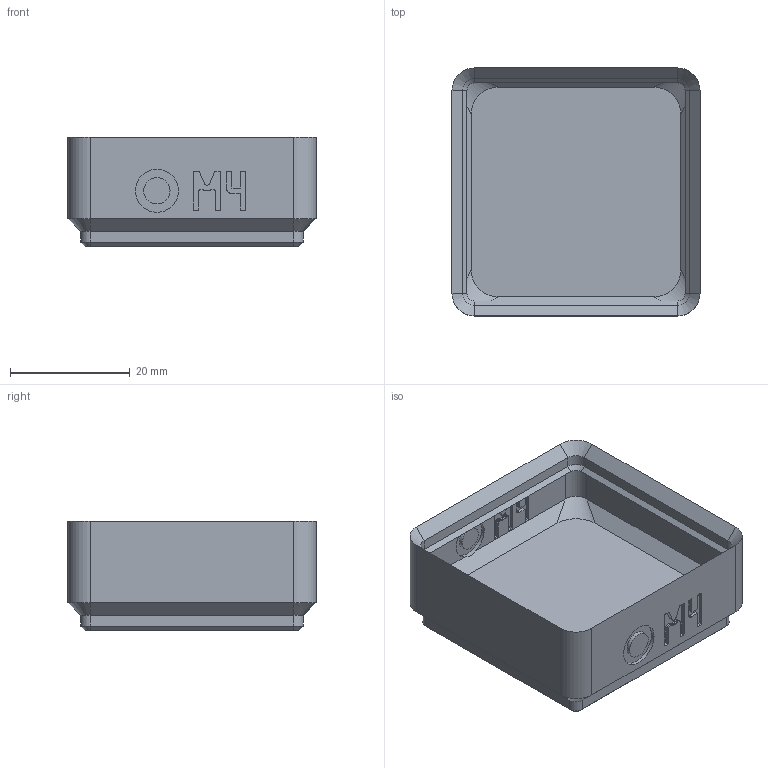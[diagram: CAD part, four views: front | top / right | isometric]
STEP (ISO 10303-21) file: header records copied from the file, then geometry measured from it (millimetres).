
FILE_DESCRIPTION(('Open CASCADE Model'),'2;1');
FILE_NAME('bin_wshr_m4','2026-11-16T17:22:21',('Author'),('Open CASCADE' ),'Open CASCADE STEP processor 8.0','build123d','Unknown');
FILE_SCHEMA(('AUTOMOTIVE_DESIGN { 1 0 10303 214 1 1 1 1 }'));
Length unit declared in the file: millimetre
Products named in the file (1): bin_wshr_m4
Bounding box: 41.5 x 41.5 x 18.4 mm (x, y, z)
Volume: 10971.2 mm3; surface area: 8324.3 mm2
Topology: 1 solids, 1 shells, 490 faces, 1360 edges, 888 vertices
Faces by surface type: plane 438, cylinder 28, cone 16, bspline 8
Full cylindrical faces by diameter (mm): 3.2 x4, 3.846 x1, 4.4 x1, 6.5 x4, 6.646 x1, 7.2 x1
Entity records: 32187 total; most frequent: CARTESIAN_POINT 6576, DIRECTION 4161, LINE 3017, VECTOR 3017, ORIENTED_EDGE 2720, PCURVE 2720, DEFINITIONAL_REPRESENTATION 2720, EDGE_CURVE 1360
